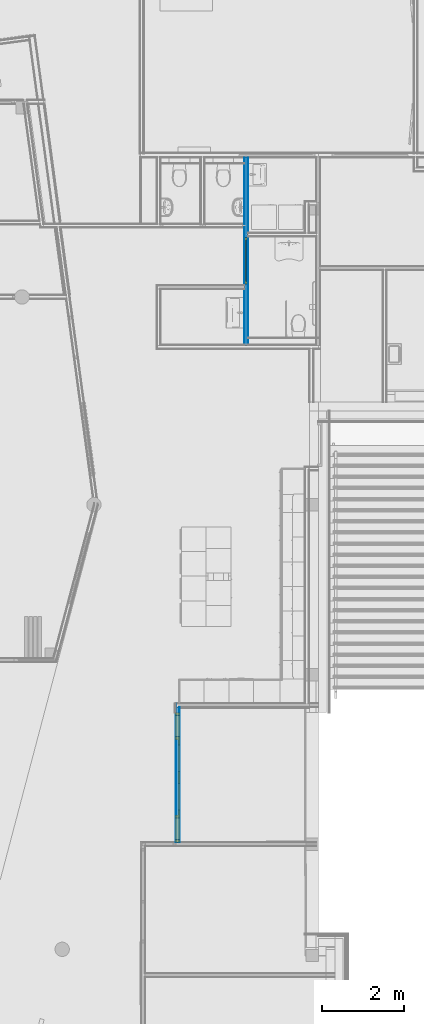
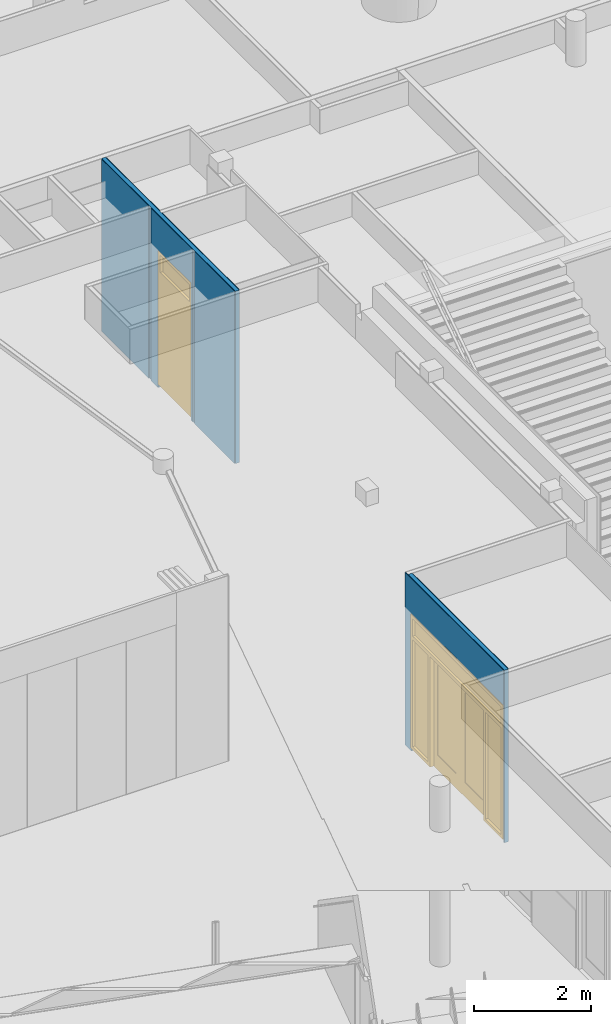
# One storey, part 44 of 167: 6 building element parts, 2 doors, 2 openings, 2 elements without a shape of their own.
"""IFC2X3 building model written with IfcOpenShell, lengths in millimetres."""

from ifc_helpers import new_model, entity, si_unit, converted_unit, derived_unit, money_unit, direction, frame, origin_with_axes, place, context, subcontext, project, spatial, open_shell, faceted_brep, surface_model, source, transform, mapped, material, type_object, type_shapes, element, fill, aggregate, save


model = new_model("IFC2X3")

# Units and contexts
model_context = context("Model", 3, precision=0.01, world=origin_with_axes(), true_north=direction((0.0, 1.0)))
plan_context = context("Plan", 3, precision=0.01, world=origin_with_axes(), true_north=direction((0.0, 1.0)))
body_context = subcontext(model_context, "Body", "Model", "MODEL_VIEW")
ifc_project = project(units=[si_unit("LENGTHUNIT", "METRE", prefix="MILLI"), si_unit("AREAUNIT", "SQUARE_METRE"), si_unit("VOLUMEUNIT", "CUBIC_METRE"), converted_unit("PLANEANGLEUNIT", "DEGREE", entity("IfcPlaneAngleMeasure", 0.0174532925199), si_unit("PLANEANGLEUNIT", "RADIAN"), dimensions=[0, 0, 0, 0, 0, 0, 0]), si_unit("SOLIDANGLEUNIT", "STERADIAN"), money_unit("EUR"), converted_unit("TIMEUNIT", "Year", entity("IfcTimeMeasure", 31556926.0), si_unit("TIMEUNIT", "SECOND"), dimensions=[0, 0, 1, 0, 0, 0, 0]), si_unit("MASSUNIT", "GRAM", prefix="KILO"), si_unit("THERMODYNAMICTEMPERATUREUNIT", "DEGREE_CELSIUS"), si_unit("LUMINOUSINTENSITYUNIT", "LUMEN"), si_unit("ENERGYUNIT", "JOULE", prefix="MEGA"), derived_unit("THERMALCONDUCTANCEUNIT", [(si_unit("POWERUNIT", "WATT"), 1), (si_unit("LENGTHUNIT", "METRE"), -1), (si_unit("THERMODYNAMICTEMPERATUREUNIT", "KELVIN"), -1)]), derived_unit("SPECIFICHEATCAPACITYUNIT", [(si_unit("ENERGYUNIT", "JOULE"), 1), (si_unit("MASSUNIT", "GRAM", prefix="KILO"), -1), (si_unit("THERMODYNAMICTEMPERATUREUNIT", "KELVIN"), -1)]), derived_unit("MASSDENSITYUNIT", [(si_unit("MASSUNIT", "GRAM", prefix="KILO"), 1), (si_unit("VOLUMEUNIT", "CUBIC_METRE"), -1)])], contexts=[model_context, plan_context])

# Site, building, storey
site_placement = place(None, origin_with_axes())
site = spatial("IfcSite", under=ifc_project, at=site_placement, Name="Site", CompositionType="ELEMENT")
building_placement = place(site_placement, origin_with_axes())
building = spatial("IfcBuilding", under=site, at=building_placement, Name="Naam gebouw", CompositionType="ELEMENT")
storey_placement = place(building_placement, origin_with_axes())
storey = spatial("IfcBuildingStorey", under=building, at=storey_placement, Name="Begane grond", CompositionType="ELEMENT", Elevation=0.0)

# Door
door_style_1 = type_object("IfcDoorStyle", Name="D2 bl zl2 24", ConstructionType="NOTDEFINED", OperationType="USERDEFINED", ParameterTakesPrecedence=False, Sizeable=False)
shared_shape_1 = source(origin_with_axes(), body_context, "Body", "SurfaceModel", [
    faceted_brep([(1575.0, 0.0, 0.0), (1575.0, -114.0, 0.0), (1508.0, -114.0, 0.0), (1508.0, 0.0, 0.0), (1575.0, 0.0, 2733.0), (1575.0, -114.0, 2733.0), (1508.0, -114.0, 2733.0), (1508.0, -114.0, 2375.0), (1508.0, -114.0, 2300.0), (1508.0, -114.0, 67.0), (1508.0, 0.0, 67.0), (1508.0, 0.0, 2300.0), (1508.0, 0.0, 2375.0), (1508.0, 0.0, 2733.0)], [[[0, 1, 2, 3]], [[4, 5, 1, 0]], [[1, 5, 6, 7, 8, 9, 2]], [[3, 2, 9, 10]], [[0, 3, 10, 11, 12, 13, 4]], [[13, 6, 5, 4]], [[12, 7, 6, 13]], [[11, 8, 7, 12]], [[10, 9, 8, 11]]]),
    faceted_brep([(915.5, -40.0, 0.0), (915.5, -114.0, 0.0), (915.5, -114.0, 2300.0), (915.5, -40.0, 2300.0), (940.5, -40.0, 0.0), (940.5, 0.0, 0.0), (982.5, 0.0, 0.0), (982.5, -114.0, 0.0), (982.5, -114.0, 67.0), (982.5, -114.0, 2300.0), (940.5, -40.0, 2300.0), (982.5, 0.0, 2300.0), (940.5, 0.0, 2300.0), (982.5, 0.0, 67.0)], [[[0, 1, 2, 3]], [[4, 5, 6, 7, 1, 0]], [[7, 8, 9, 2, 1]], [[10, 3, 2, 9, 11, 12]], [[10, 4, 0, 3]], [[12, 5, 4, 10]], [[12, 11, 13, 6, 5]], [[6, 13, 8, 7]], [[13, 11, 9, 8]]]),
    faceted_brep([(1508.0, 0.0, 67.0), (1508.0, -114.0, 67.0), (1508.0, -114.0, 0.0), (1508.0, 0.0, 0.0), (982.5, 0.0, 67.0), (982.5, -114.0, 67.0), (982.5, -114.0, 0.0), (982.5, 0.0, 0.0)], [[[0, 1, 2, 3]], [[4, 5, 1, 0]], [[1, 5, 6, 2]], [[3, 2, 6, 7]], [[0, 3, 7, 4]], [[7, 6, 5, 4]]]),
    faceted_brep([(-1575.0, 0.0, 0.0), (-1575.0, -114.0, 0.0), (-1575.0, -114.0, 2733.0), (-1575.0, 0.0, 2733.0), (-1508.0, 0.0, 0.0), (-1508.0, -114.0, 0.0), (-1508.0, -114.0, 67.0), (-1508.0, -114.0, 2300.0), (-1508.0, -114.0, 2375.0), (-1508.0, -114.0, 2733.0), (-1508.0, 0.0, 2733.0), (-1508.0, 0.0, 2375.0), (-1508.0, 0.0, 2300.0), (-1508.0, 0.0, 67.0)], [[[0, 1, 2, 3]], [[4, 5, 1, 0]], [[1, 5, 6, 7, 8, 9, 2]], [[3, 2, 9, 10]], [[0, 3, 10, 11, 12, 13, 4]], [[13, 6, 5, 4]], [[12, 7, 6, 13]], [[11, 8, 7, 12]], [[10, 9, 8, 11]]]),
    faceted_brep([(-940.5, -40.0, 2300.0), (-940.5, 0.0, 2300.0), (-990.5, 0.0, 2300.0), (-990.5, -114.0, 2300.0), (-915.5, -114.0, 2300.0), (-915.5, -40.0, 2300.0), (-940.5, -40.0, 0.0), (-940.5, 0.0, 0.0), (-990.5, 0.0, 0.0), (-990.5, 0.0, 67.0), (-990.5, -114.0, 67.0), (-915.5, -114.0, 0.0), (-990.5, -114.0, 0.0), (-915.5, -40.0, 0.0)], [[[0, 1, 2, 3, 4, 5]], [[0, 6, 7, 1]], [[7, 8, 9, 2, 1]], [[2, 9, 10, 3]], [[11, 4, 3, 10, 12]], [[5, 4, 11, 13]], [[5, 13, 6, 0]], [[6, 13, 11, 12, 8, 7]], [[9, 8, 12, 10]]]),
    faceted_brep([(-990.5, 0.0, 67.0), (-990.5, -114.0, 67.0), (-990.5, -114.0, 0.0), (-990.5, 0.0, 0.0), (-1508.0, 0.0, 67.0), (-1508.0, -114.0, 67.0), (-1508.0, -114.0, 0.0), (-1508.0, 0.0, 0.0)], [[[0, 1, 2, 3]], [[4, 5, 1, 0]], [[1, 5, 6, 2]], [[3, 2, 6, 7]], [[0, 3, 7, 4]], [[7, 6, 5, 4]]]),
    faceted_brep([(1575.0, 0.0, 2800.0), (1575.0, -114.0, 2800.0), (1575.0, -114.0, 2733.0), (1575.0, 0.0, 2733.0), (-1575.0, 0.0, 2800.0), (-1575.0, -114.0, 2800.0), (-1575.0, -114.0, 2733.0), (-1508.0, -114.0, 2733.0), (1508.0, -114.0, 2733.0), (1508.0, 0.0, 2733.0), (-1508.0, 0.0, 2733.0), (-1575.0, 0.0, 2733.0)], [[[0, 1, 2, 3]], [[4, 5, 1, 0]], [[1, 5, 6, 7, 8, 2]], [[3, 2, 8, 9]], [[0, 3, 9, 10, 11, 4]], [[11, 6, 5, 4]], [[10, 7, 6, 11]], [[9, 8, 7, 10]]]),
    faceted_brep([(940.5, 0.0, 2325.0), (-940.5, 0.0, 2325.0), (-940.5, 0.0, 2300.0), (-990.5, 0.0, 2300.0), (-1508.0, 0.0, 2300.0), (-1508.0, 0.0, 2375.0), (1508.0, 0.0, 2375.0), (1508.0, 0.0, 2300.0), (982.5, 0.0, 2300.0), (940.5, 0.0, 2300.0), (940.5, -40.0, 2325.0), (-940.5, -40.0, 2325.0), (-940.5, -40.0, 2300.0), (-915.5, -40.0, 2300.0), (-915.5, -114.0, 2300.0), (-990.5, -114.0, 2300.0), (-1508.0, -114.0, 2300.0), (-1508.0, -114.0, 2375.0), (1508.0, -114.0, 2375.0), (1508.0, -114.0, 2300.0), (982.5, -114.0, 2300.0), (940.5, -40.0, 2300.0), (915.5, -114.0, 2300.0), (915.5, -40.0, 2300.0)], [[[0, 1, 2, 3, 4, 5, 6, 7, 8, 9]], [[0, 10, 11, 1]], [[1, 11, 12, 2]], [[12, 13, 14, 15, 3, 2]], [[4, 3, 15, 16]], [[5, 4, 16, 17]], [[6, 5, 17, 18]], [[7, 6, 18, 19]], [[8, 7, 19, 20]], [[21, 9, 8, 20, 22, 23]], [[9, 21, 10, 0]], [[12, 11, 10, 21, 23, 13]], [[23, 22, 14, 13]], [[16, 15, 14, 22, 20, 19, 18, 17]]]),
    faceted_brep([(-940.5, 0.0, 300.0), (-790.5, 0.0, 300.0), (-790.5, -40.0, 300.0), (-940.5, -40.0, 300.0), (-940.5, 0.0, 2175.0), (-790.5, 0.0, 2175.0), (-790.5, -40.0, 2175.0), (-940.5, -40.0, 2175.0)], [[[0, 1, 2, 3]], [[0, 4, 5, 1]], [[1, 5, 6, 2]], [[3, 2, 6, 7]], [[4, 0, 3, 7]], [[5, 4, 7, 6]]]),
    faceted_brep([(0.0, 0.0, 300.0), (0.0, 0.0, 2175.0), (0.0, -40.0, 2175.0), (0.0, -40.0, 300.0), (-150.0, 0.0, 300.0), (-150.0, 0.0, 2175.0), (-150.0, -40.0, 2175.0), (-150.0, -40.0, 300.0)], [[[0, 1, 2, 3]], [[0, 4, 5, 1]], [[1, 5, 6, 2]], [[3, 2, 6, 7]], [[4, 0, 3, 7]], [[5, 4, 7, 6]]]),
    faceted_brep([(-940.5, 0.0, 0.0), (0.0, 0.0, 0.0), (0.0, -40.0, 0.0), (-940.5, -40.0, 0.0), (-940.5, 0.0, 300.0), (-790.5, 0.0, 300.0), (-150.0, 0.0, 300.0), (0.0, 0.0, 300.0), (0.0, -40.0, 300.0), (-150.0, -40.0, 300.0), (-790.5, -40.0, 300.0), (-940.5, -40.0, 300.0)], [[[0, 1, 2, 3]], [[0, 4, 5, 6, 7, 1]], [[1, 7, 8, 2]], [[3, 2, 8, 9, 10, 11]], [[4, 0, 3, 11]], [[5, 4, 11, 10]], [[6, 5, 10, 9]], [[7, 6, 9, 8]]]),
    faceted_brep([(-940.5, 0.0, 2325.0), (-940.5, 0.0, 2175.0), (-940.5, -40.0, 2175.0), (-940.5, -40.0, 2325.0), (0.0, 0.0, 2325.0), (0.0, 0.0, 2175.0), (-150.0, 0.0, 2175.0), (-790.5, 0.0, 2175.0), (-790.5, -40.0, 2175.0), (-150.0, -40.0, 2175.0), (0.0, -40.0, 2175.0), (0.0, -40.0, 2325.0)], [[[0, 1, 2, 3]], [[0, 4, 5, 6, 7, 1]], [[1, 7, 8, 2]], [[3, 2, 8, 9, 10, 11]], [[4, 0, 3, 11]], [[5, 4, 11, 10]], [[6, 5, 10, 9]], [[7, 6, 9, 8]]]),
    surface_model("IfcShellBasedSurfaceModel", [(-790.5, -14.0, 300.0), (-790.5, -14.0, 2175.0), (-150.0, -14.0, 2175.0), (-150.0, -14.0, 300.0)], [open_shell([[[0, 1, 2, 3]]])]),
    surface_model("IfcShellBasedSurfaceModel", [(-790.5, -26.0, 300.0), (-150.0, -26.0, 300.0), (-150.0, -26.0, 2175.0), (-790.5, -26.0, 2175.0)], [open_shell([[[0, 1, 2, 3]]])]),
    faceted_brep([(940.5, 0.0, 300.0), (940.5, -40.0, 300.0), (790.5, -40.0, 300.0), (790.5, 0.0, 300.0), (940.5, 0.0, 2175.0), (940.5, -40.0, 2175.0), (790.5, -40.0, 2175.0), (790.5, 0.0, 2175.0)], [[[0, 1, 2, 3]], [[4, 5, 1, 0]], [[1, 5, 6, 2]], [[3, 2, 6, 7]], [[0, 3, 7, 4]], [[7, 6, 5, 4]]]),
    faceted_brep([(0.0, 0.0, 300.0), (0.0, -40.0, 300.0), (0.0, -40.0, 2175.0), (0.0, 0.0, 2175.0), (150.0, 0.0, 300.0), (150.0, -40.0, 300.0), (150.0, -40.0, 2175.0), (150.0, 0.0, 2175.0)], [[[0, 1, 2, 3]], [[4, 5, 1, 0]], [[1, 5, 6, 2]], [[3, 2, 6, 7]], [[0, 3, 7, 4]], [[7, 6, 5, 4]]]),
    faceted_brep([(940.5, 0.0, 0.0), (940.5, -40.0, 0.0), (0.0, -40.0, 0.0), (0.0, 0.0, 0.0), (940.5, 0.0, 300.0), (940.5, -40.0, 300.0), (790.5, -40.0, 300.0), (150.0, -40.0, 300.0), (0.0, -40.0, 300.0), (0.0, 0.0, 300.0), (150.0, 0.0, 300.0), (790.5, 0.0, 300.0)], [[[0, 1, 2, 3]], [[4, 5, 1, 0]], [[1, 5, 6, 7, 8, 2]], [[3, 2, 8, 9]], [[0, 3, 9, 10, 11, 4]], [[11, 6, 5, 4]], [[10, 7, 6, 11]], [[9, 8, 7, 10]]]),
    faceted_brep([(940.5, 0.0, 2325.0), (940.5, -40.0, 2325.0), (940.5, -40.0, 2175.0), (940.5, 0.0, 2175.0), (0.0, 0.0, 2325.0), (0.0, -40.0, 2325.0), (0.0, -40.0, 2175.0), (150.0, -40.0, 2175.0), (790.5, -40.0, 2175.0), (790.5, 0.0, 2175.0), (150.0, 0.0, 2175.0), (0.0, 0.0, 2175.0)], [[[0, 1, 2, 3]], [[4, 5, 1, 0]], [[1, 5, 6, 7, 8, 2]], [[3, 2, 8, 9]], [[0, 3, 9, 10, 11, 4]], [[11, 6, 5, 4]], [[10, 7, 6, 11]], [[9, 8, 7, 10]]]),
    surface_model("IfcShellBasedSurfaceModel", [(790.5, -14.0, 300.0), (150.0, -14.0, 300.0), (150.0, -14.0, 2175.0), (790.5, -14.0, 2175.0)], [open_shell([[[0, 1, 2, 3]]])]),
    surface_model("IfcShellBasedSurfaceModel", [(790.5, -26.0, 300.0), (790.5, -26.0, 2175.0), (150.0, -26.0, 2175.0), (150.0, -26.0, 300.0)], [open_shell([[[0, 1, 2, 3]]])]),
    surface_model("IfcShellBasedSurfaceModel", [(1508.0, -54.0, 2375.0), (-1508.0, -54.0, 2375.0), (-1508.0, -54.0, 2733.0), (1508.0, -54.0, 2733.0)], [open_shell([[[0, 1, 2, 3]]])]),
    surface_model("IfcShellBasedSurfaceModel", [(1508.0, -66.0, 2375.0), (1508.0, -66.0, 2733.0), (-1508.0, -66.0, 2733.0), (-1508.0, -66.0, 2375.0)], [open_shell([[[0, 1, 2, 3]]])]),
    surface_model("IfcShellBasedSurfaceModel", [(1508.0, -54.0, 67.0), (982.5, -54.0, 67.0), (982.5, -54.0, 2300.0), (1508.0, -54.0, 2300.0)], [open_shell([[[0, 1, 2, 3]]])]),
    surface_model("IfcShellBasedSurfaceModel", [(1508.0, -66.0, 67.0), (1508.0, -66.0, 2300.0), (982.5, -66.0, 2300.0), (982.5, -66.0, 67.0)], [open_shell([[[0, 1, 2, 3]]])]),
    surface_model("IfcShellBasedSurfaceModel", [(-990.5, -54.0, 67.0), (-1508.0, -54.0, 67.0), (-1508.0, -54.0, 2300.0), (-990.5, -54.0, 2300.0)], [open_shell([[[0, 1, 2, 3]]])]),
    surface_model("IfcShellBasedSurfaceModel", [(-990.5, -66.0, 67.0), (-990.5, -66.0, 2300.0), (-1508.0, -66.0, 2300.0), (-1508.0, -66.0, 67.0)], [open_shell([[[0, 1, 2, 3]]])]),
])
type_shapes(door_style_1, [shared_shape_1])
wall_1_placement = place(storey_placement, frame((25384.4423139, 23929.2322881, -100.0), z_axis=(0.0, 0.0, 1.0), x_axis=(0.0, -1.0, 0.0)))
opening_1_placement = place(wall_1_placement, frame((1752.44578806, 0.0, 100.0), z_axis=(0.0, 0.0, 1.0), x_axis=(1.0, 0.0, 0.0)))
door_1_placement = place(opening_1_placement, frame((-1575.0, 0.0, 0.0), z_axis=(0.0, 0.0, 1.0), x_axis=(1.0, 0.0, 0.0)))
door_1 = element("IfcDoor", 1, at=door_1_placement, inside=storey, type_object=door_style_1, Name="32_Deur_Hi-51", ObjectType="DOOR", OverallHeight=2800.0, OverallWidth=3150.0, context=body_context, shape_type="MappedRepresentation", body=[
    mapped(shared_shape_1, transform((1575.0, 50.0, 0.0))),
])

door_style_2 = type_object("IfcDoorStyle", Name="D1 bl 24", ConstructionType="NOTDEFINED", OperationType="SINGLE_SWING_LEFT", ParameterTakesPrecedence=False, Sizeable=False)
shared_shape_2 = source(origin_with_axes(), body_context, "Body", "SurfaceModel", [
    faceted_brep([(500.0, -40.0, 2325.0), (500.0, -40.0, 0.0), (500.0, -114.0, 0.0), (500.0, -114.0, 2300.0), (500.0, -114.0, 2375.0), (500.0, 0.0, 2375.0), (500.0, 0.0, 2325.0), (525.0, -40.0, 2325.0), (525.0, -40.0, 0.0), (525.0, 0.0, 0.0), (567.0, 0.0, 0.0), (567.0, -114.0, 0.0), (567.0, -114.0, 2733.0), (500.0, -114.0, 2733.0), (500.0, 0.0, 2733.0), (525.0, 0.0, 2325.0), (567.0, 0.0, 2733.0)], [[[0, 1, 2, 3, 4, 5, 6]], [[0, 7, 8, 1]], [[8, 9, 10, 11, 2, 1]], [[4, 3, 2, 11, 12, 13]], [[14, 5, 4, 13]], [[15, 6, 5, 14, 16, 10, 9]], [[6, 15, 7, 0]], [[9, 8, 7, 15]], [[10, 16, 12, 11]], [[16, 14, 13, 12]]]),
    faceted_brep([(-525.0, 0.0, 2325.0), (-525.0, 0.0, 0.0), (-567.0, 0.0, 0.0), (-567.0, 0.0, 2733.0), (-500.0, 0.0, 2733.0), (-500.0, 0.0, 2375.0), (-500.0, 0.0, 2325.0), (-525.0, -40.0, 2325.0), (-525.0, -40.0, 0.0), (-500.0, -40.0, 0.0), (-500.0, -114.0, 0.0), (-567.0, -114.0, 0.0), (-567.0, -114.0, 2733.0), (-500.0, -114.0, 2733.0), (-500.0, -114.0, 2375.0), (-500.0, -40.0, 2325.0), (-500.0, -114.0, 2300.0)], [[[0, 1, 2, 3, 4, 5, 6]], [[0, 7, 8, 1]], [[8, 9, 10, 11, 2, 1]], [[3, 2, 11, 12]], [[4, 3, 12, 13]], [[5, 4, 13, 14]], [[15, 6, 5, 14, 16, 10, 9]], [[6, 15, 7, 0]], [[8, 7, 15, 9]], [[14, 13, 12, 11, 10, 16]]]),
    faceted_brep([(567.0, 0.0, 2800.0), (567.0, -114.0, 2800.0), (567.0, -114.0, 2733.0), (567.0, 0.0, 2733.0), (-567.0, 0.0, 2800.0), (-567.0, -114.0, 2800.0), (-567.0, -114.0, 2733.0), (-500.0, -114.0, 2733.0), (500.0, -114.0, 2733.0), (500.0, 0.0, 2733.0), (-500.0, 0.0, 2733.0), (-567.0, 0.0, 2733.0)], [[[0, 1, 2, 3]], [[4, 5, 1, 0]], [[1, 5, 6, 7, 8, 2]], [[3, 2, 8, 9]], [[0, 3, 9, 10, 11, 4]], [[11, 6, 5, 4]], [[10, 7, 6, 11]], [[9, 8, 7, 10]]]),
    faceted_brep([(-500.0, -40.0, 2325.0), (-500.0, -40.0, 2300.0), (-500.0, -114.0, 2300.0), (-500.0, -114.0, 2375.0), (-500.0, 0.0, 2375.0), (-500.0, 0.0, 2325.0), (500.0, -40.0, 2325.0), (500.0, -40.0, 2300.0), (500.0, -114.0, 2300.0), (500.0, -114.0, 2375.0), (500.0, 0.0, 2375.0), (500.0, 0.0, 2325.0)], [[[0, 1, 2, 3, 4, 5]], [[0, 6, 7, 1]], [[7, 8, 2, 1]], [[8, 9, 3, 2]], [[10, 4, 3, 9]], [[5, 4, 10, 11]], [[5, 11, 6, 0]], [[6, 11, 10, 9, 8, 7]]]),
    faceted_brep([(-525.0, 0.0, 0.0), (525.0, 0.0, 0.0), (525.0, -40.0, 0.0), (-525.0, -40.0, 0.0), (-525.0, 0.0, 2325.0), (525.0, 0.0, 2325.0), (525.0, -40.0, 2325.0), (-525.0, -40.0, 2325.0)], [[[0, 1, 2, 3]], [[0, 4, 5, 1]], [[1, 5, 6, 2]], [[3, 2, 6, 7]], [[4, 0, 3, 7]], [[5, 4, 7, 6]]]),
    surface_model("IfcShellBasedSurfaceModel", [(500.0, -54.0, 2375.0), (-500.0, -54.0, 2375.0), (-500.0, -54.0, 2733.0), (500.0, -54.0, 2733.0)], [open_shell([[[0, 1, 2, 3]]])]),
    surface_model("IfcShellBasedSurfaceModel", [(500.0, -66.0, 2375.0), (500.0, -66.0, 2733.0), (-500.0, -66.0, 2733.0), (-500.0, -66.0, 2375.0)], [open_shell([[[0, 1, 2, 3]]])]),
])
type_shapes(door_style_2, [shared_shape_2])
wall_2_placement = place(storey_placement, frame((27050.0000132, 37300.0, -100.0), z_axis=(0.0, 0.0, 1.0), x_axis=(0.0, -1.0, 0.0)))
opening_2_placement = place(wall_2_placement, frame((2566.6471383, 0.0, 100.0), z_axis=(0.0, 0.0, 1.0), x_axis=(1.0, 0.0, 0.0)))
door_2_placement = place(opening_2_placement, frame((567.0, 0.0, 0.0), z_axis=(0.0, 0.0, 1.0), x_axis=(-1.0, 0.0, 0.0)))
door_2 = element("IfcDoor", 2, at=door_2_placement, inside=storey, type_object=door_style_2, Name="32_Deur_Hi-06", ObjectType="DOOR", OverallHeight=2800.0, OverallWidth=1134.0, context=body_context, shape_type="MappedRepresentation", body=[
    mapped(shared_shape_2, transform((567.0, 50.0, 0.0))),
])

# Wall, opening
wall_type = type_object("IfcWallType", Name="_TenW_22_Metalstud 100 enkel gipsvezelplaat 100", PredefinedType="NOTDEFINED")
wall_1 = element("IfcWall", 3, at=wall_1_placement, inside=storey, type_object=wall_type, Name="22_Wand_Wand-x")
opening_1 = element("IfcOpeningElement", 4, at=opening_1_placement, cuts=wall_1, Name="32_Deur_Hi-51", context=body_context, shape_type="Brep", body=[
    faceted_brep([(-1575.0, 200.0, 2800.0), (-1575.0, 200.0, 0.0), (-1575.0, -100.0, 0.0), (-1575.0, -100.0, 2800.0), (1575.0, 200.0, 2800.0), (1575.0, 200.0, 0.0), (1575.0, -100.0, 0.0), (1575.0, -100.0, 2800.0)], [[[0, 1, 2, 3]], [[0, 4, 5, 1]], [[1, 5, 6, 2]], [[3, 2, 6, 7]], [[4, 0, 3, 7]], [[5, 4, 7, 6]]]),
])

fill(opening_1, door_1)

# Building element part
ifc_material_1 = material(Name="Gipsplaat watervast")
building_element_part_1_placement = place(wall_1_placement, origin_with_axes())
building_element_part_1 = element("IfcBuildingElementPart", 5, at=building_element_part_1_placement, material=ifc_material_1, Name="Gipsplaat watervast", context=body_context, shape_type="Brep", body=[
    faceted_brep([(3327.44578806, 50.0, 100.0), (3327.44578806, 50.0, 2900.0), (177.445788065, 50.0, 2900.0), (177.445788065, 50.0, 100.0), (177.445788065, 50.0, 30.0), (50.0, 50.0, 30.0), (50.0, 50.0, 100.0), (70.0, 50.0, 100.0), (70.0, 50.0, 1300.0), (50.0, 50.0, 1300.0), (50.0, 50.0, 3630.0), (3329.23228815, 50.0, 3630.0), (3329.23228815, 50.0, 30.0), (3327.44578806, 50.0, 30.0), (3327.44578806, 37.5, 100.0), (3327.44578806, 37.5, 2900.0), (177.445788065, 37.5, 2900.0), (177.445788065, 37.5, 100.0), (177.445788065, 37.5, 30.0), (50.0, 37.5, 30.0), (50.0, 37.5, 100.0), (70.0, 37.5, 100.0), (70.0, 37.5, 1300.0), (50.0, 37.5, 1300.0), (50.0, 37.5, 3630.0), (3329.23228815, 37.5, 3630.0), (3329.23228815, 37.5, 30.0), (3327.44578806, 37.5, 30.0)], [[[0, 1, 2, 3, 4, 5, 6, 7, 8, 9, 10, 11, 12, 13]], [[1, 0, 14, 15]], [[2, 1, 15, 16]], [[3, 2, 16, 17]], [[3, 17, 18, 4]], [[18, 19, 5, 4]], [[19, 20, 6, 5]], [[7, 6, 20, 21]], [[8, 7, 21, 22]], [[23, 9, 8, 22]], [[10, 9, 23, 24]], [[10, 24, 25, 11]], [[25, 26, 12, 11]], [[13, 12, 26, 27]], [[14, 0, 13, 27]], [[15, 14, 27, 26, 25, 24, 23, 22, 21, 20, 19, 18, 17, 16]]]),
])

ifc_material_2 = material(Name="Isolatie - Steenwol zacht")
building_element_part_2_placement = place(wall_1_placement, origin_with_axes())
building_element_part_2 = element("IfcBuildingElementPart", 6, at=building_element_part_2_placement, material=ifc_material_2, Name="Isolatie - Steenwol zacht", context=body_context, shape_type="Brep", body=[
    faceted_brep([(3327.44578806, 37.5, 100.0), (3327.44578806, 37.5, 2900.0), (177.445788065, 37.5, 2900.0), (177.445788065, 37.5, 100.0), (177.445788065, 37.5, 30.0), (37.5, 37.5, 30.0), (37.5, 37.5, 3630.0), (3341.73228815, 37.5, 3630.0), (3341.73228815, 37.5, 30.0), (3327.44578806, 37.5, 30.0), (3327.44578806, -37.5, 100.0), (3327.44578806, -37.5, 2900.0), (177.445788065, -37.5, 2900.0), (177.445788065, -37.5, 100.0), (177.445788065, -37.5, 30.0), (37.5, -37.5, 30.0), (37.5, -37.5, 3630.0), (3341.73228815, -37.5, 3630.0), (3341.73228815, -37.5, 30.0), (3327.44578806, -37.5, 30.0)], [[[0, 1, 2, 3, 4, 5, 6, 7, 8, 9]], [[1, 0, 10, 11]], [[2, 1, 11, 12]], [[3, 2, 12, 13]], [[3, 13, 14, 4]], [[14, 15, 5, 4]], [[6, 5, 15, 16]], [[6, 16, 17, 7]], [[17, 18, 8, 7]], [[9, 8, 18, 19]], [[10, 0, 9, 19]], [[11, 10, 19, 18, 17, 16, 15, 14, 13, 12]]]),
])

building_element_part_3_placement = place(wall_1_placement, origin_with_axes())
building_element_part_3 = element("IfcBuildingElementPart", 7, at=building_element_part_3_placement, material=ifc_material_1, Name="Gipsplaat watervast", context=body_context, shape_type="Brep", body=[
    faceted_brep([(3327.44578806, -37.5, 30.0), (3327.44578806, -37.5, 100.0), (3327.44578806, -37.5, 2900.0), (177.445788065, -37.5, 2900.0), (177.445788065, -37.5, 100.0), (177.445788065, -37.5, 30.0), (-37.5, -37.5, 30.0), (-37.5, -37.5, 3630.0), (3329.23228815, -37.5, 3630.0), (3329.23228815, -37.5, 30.0), (3327.44578806, -50.0, 30.0), (3327.44578806, -50.0, 100.0), (3327.44578806, -50.0, 2900.0), (177.445788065, -50.0, 2900.0), (177.445788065, -50.0, 100.0), (177.445788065, -50.0, 30.0), (-37.5, -50.0, 30.0), (-37.5, -50.0, 3630.0), (3329.23228815, -50.0, 3630.0), (3329.23228815, -50.0, 30.0)], [[[0, 1, 2, 3, 4, 5, 6, 7, 8, 9]], [[10, 11, 1, 0]], [[12, 2, 1, 11]], [[13, 3, 2, 12]], [[14, 4, 3, 13]], [[5, 4, 14, 15]], [[5, 15, 16, 6]], [[17, 7, 6, 16]], [[8, 7, 17, 18]], [[8, 18, 19, 9]], [[10, 0, 9, 19]], [[13, 12, 11, 10, 19, 18, 17, 16, 15, 14]]]),
])

aggregate(wall_1, [building_element_part_1, building_element_part_2, building_element_part_3])

# Wall, opening
wall_2 = element("IfcWall", 8, at=wall_2_placement, inside=storey, type_object=wall_type, Name="22_Wand_Wand-x")
opening_2 = element("IfcOpeningElement", 9, at=opening_2_placement, cuts=wall_2, Name="32_Deur_Hi-06", context=body_context, shape_type="Brep", body=[
    faceted_brep([(567.0, -200.0, 2800.0), (567.0, -200.0, 0.0), (567.0, 100.0, 0.0), (567.0, 100.0, 2800.0), (-567.0, -200.0, 2800.0), (-567.0, -200.0, 0.0), (-567.0, 100.0, 0.0), (-567.0, 100.0, 2800.0)], [[[0, 1, 2, 3]], [[0, 4, 5, 1]], [[1, 5, 6, 2]], [[3, 2, 6, 7]], [[4, 0, 3, 7]], [[5, 4, 7, 6]]]),
])

fill(opening_2, door_2)

# Building element part
building_element_part_4_placement = place(wall_2_placement, origin_with_axes())
building_element_part_4 = element("IfcBuildingElementPart", 10, at=building_element_part_4_placement, material=ifc_material_1, Name="Gipsplaat watervast", context=body_context, shape_type="Brep", body=[
    faceted_brep([(3133.6471383, 50.0, 100.0), (3133.6471383, 50.0, 2900.0), (1999.6471383, 50.0, 2900.0), (1999.6471383, 50.0, 100.0), (1999.6471383, 50.0, 30.0), (1970.09999984, 50.0, 30.0), (1970.09999984, 50.0, 3630.0), (4613.64713374, 50.0, 3630.0), (4613.64713374, 50.0, 30.0), (3133.6471383, 50.0, 30.0), (3133.6471383, 37.5, 100.0), (3133.6471383, 37.5, 2900.0), (1999.6471383, 37.5, 2900.0), (1999.6471383, 37.5, 100.0), (1999.6471383, 37.5, 30.0), (1970.09999984, 37.5, 30.0), (1970.09999984, 37.5, 3630.0), (4613.64713374, 37.5, 3630.0), (4613.64713374, 37.5, 30.0), (3133.6471383, 37.5, 30.0)], [[[0, 1, 2, 3, 4, 5, 6, 7, 8, 9]], [[1, 0, 10, 11]], [[2, 1, 11, 12]], [[3, 2, 12, 13]], [[3, 13, 14, 4]], [[14, 15, 5, 4]], [[15, 16, 6, 5]], [[7, 6, 16, 17]], [[8, 7, 17, 18]], [[9, 8, 18, 19]], [[10, 0, 9, 19]], [[11, 10, 19, 18, 17, 16, 15, 14, 13, 12]]]),
    faceted_brep([(1895.09999984, 50.0, 30.0), (62.5, 50.0, 30.0), (62.5, 50.0, 3630.0), (1895.09999984, 50.0, 3630.0), (62.5, 37.5, 30.0), (1895.09999984, 37.5, 30.0), (62.5, 37.5, 3630.0), (1895.09999984, 37.5, 3630.0)], [[[0, 1, 2, 3]], [[4, 1, 0, 5]], [[1, 4, 6, 2]], [[7, 3, 2, 6]], [[5, 0, 3, 7]], [[4, 5, 7, 6]]]),
])

building_element_part_5_placement = place(wall_2_placement, origin_with_axes())
building_element_part_5 = element("IfcBuildingElementPart", 11, at=building_element_part_5_placement, material=ifc_material_2, Name="Isolatie - Steenwol zacht", context=body_context, shape_type="Brep", body=[
    faceted_brep([(3133.6471383, 37.5, 100.0), (3133.6471383, 37.5, 2900.0), (1999.6471383, 37.5, 2900.0), (1999.6471383, 37.5, 100.0), (1999.6471383, 37.5, 30.0), (50.0, 37.5, 30.0), (50.0, 37.5, 3630.0), (4626.14713374, 37.5, 3630.0), (4626.14713374, 37.5, 30.0), (3133.6471383, 37.5, 30.0), (3133.6471383, -37.5, 100.0), (3133.6471383, -37.5, 2900.0), (1999.6471383, -37.5, 2900.0), (1999.6471383, -37.5, 100.0), (1999.6471383, -37.5, 30.0), (50.0, -37.5, 30.0), (50.0, -37.5, 3630.0), (4626.14713374, -37.5, 3630.0), (4626.14713374, -37.5, 30.0), (3133.6471383, -37.5, 30.0)], [[[0, 1, 2, 3, 4, 5, 6, 7, 8, 9]], [[1, 0, 10, 11]], [[2, 1, 11, 12]], [[3, 2, 12, 13]], [[3, 13, 14, 4]], [[14, 15, 5, 4]], [[15, 16, 6, 5]], [[7, 6, 16, 17]], [[8, 7, 17, 18]], [[9, 8, 18, 19]], [[10, 0, 9, 19]], [[11, 10, 19, 18, 17, 16, 15, 14, 13, 12]]]),
])

building_element_part_6_placement = place(wall_2_placement, origin_with_axes())
building_element_part_6 = element("IfcBuildingElementPart", 12, at=building_element_part_6_placement, material=ifc_material_1, Name="Gipsplaat watervast", context=body_context, shape_type="Brep", body=[
    faceted_brep([(4613.64713374, -37.5, 30.0), (3251.1471383, -37.5, 30.0), (3251.1471383, -37.5, 3630.0), (4613.64713374, -37.5, 3630.0), (3251.1471383, -50.0, 30.0), (4613.64713374, -50.0, 30.0), (3251.1471383, -50.0, 3630.0), (4613.64713374, -50.0, 3630.0)], [[[0, 1, 2, 3]], [[4, 1, 0, 5]], [[1, 4, 6, 2]], [[7, 3, 2, 6]], [[5, 0, 3, 7]], [[4, 5, 7, 6]]]),
    faceted_brep([(3133.6471383, -37.5, 100.0), (3133.6471383, -37.5, 2900.0), (1999.6471383, -37.5, 2900.0), (1999.6471383, -37.5, 100.0), (1999.6471383, -37.5, 30.0), (1751.14681629, -37.5, 30.0), (1751.14681629, -37.5, 3630.0), (3176.1471383, -37.5, 3630.0), (3176.1471383, -37.5, 30.0), (3133.6471383, -37.5, 30.0), (3133.6471383, -50.0, 100.0), (3133.6471383, -50.0, 2900.0), (1999.6471383, -50.0, 2900.0), (1999.6471383, -50.0, 100.0), (1999.6471383, -50.0, 30.0), (1751.14681654, -50.0, 30.0), (1751.14681654, -50.0, 3630.0), (3176.1471383, -50.0, 3630.0), (3176.1471383, -50.0, 30.0), (3133.6471383, -50.0, 30.0)], [[[0, 1, 2, 3, 4, 5, 6, 7, 8, 9]], [[1, 0, 10, 11]], [[2, 1, 11, 12]], [[3, 2, 12, 13]], [[3, 13, 14, 4]], [[14, 15, 5, 4]], [[15, 16, 6, 5]], [[7, 6, 16, 17]], [[8, 7, 17, 18]], [[9, 8, 18, 19]], [[10, 0, 9, 19]], [[11, 10, 19, 18, 17, 16, 15, 14, 13, 12]]]),
    faceted_brep([(1676.14681629, -37.5, 30.0), (62.5, -37.5, 30.0), (62.5, -37.5, 3630.0), (1676.14681629, -37.5, 3630.0), (62.5, -50.0, 30.0), (1676.14681654, -50.0, 30.0), (62.5, -50.0, 3630.0), (1676.14681654, -50.0, 3630.0)], [[[0, 1, 2, 3]], [[4, 1, 0, 5]], [[1, 4, 6, 2]], [[7, 3, 2, 6]], [[5, 0, 3, 7]], [[4, 5, 7, 6]]]),
])

aggregate(wall_2, [building_element_part_4, building_element_part_5, building_element_part_6])

save(model, "model.ifc")
